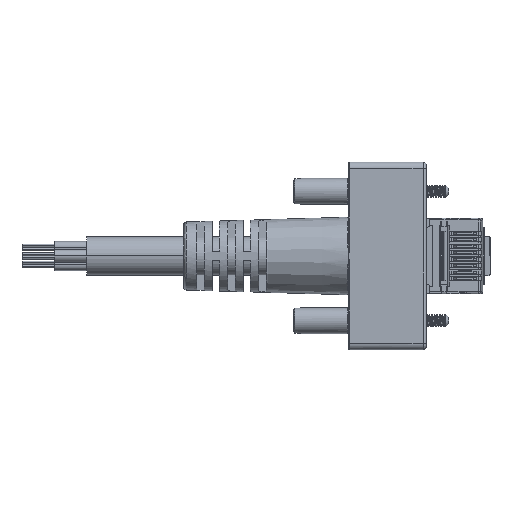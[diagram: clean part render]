
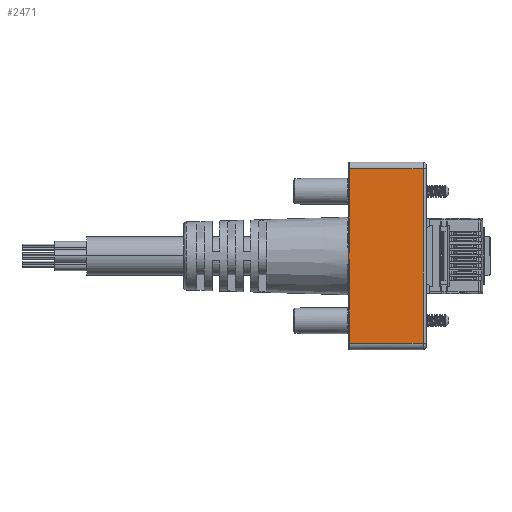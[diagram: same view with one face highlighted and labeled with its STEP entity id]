
A CAD part, top view. The second image highlights one B-rep face of the part: STEP entity #2471.
In plain terms, the highlighted planar face has unit normal (0.021, 0, 1) as drawn and (0, 1, -0.021) by its records, which use the part's own axes.
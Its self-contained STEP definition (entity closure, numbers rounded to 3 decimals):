
#859 = VERTEX_POINT ( 'NONE', #25963 ) ;
#885 = LINE ( 'NONE', #11536, #23726 ) ;
#886 = CARTESIAN_POINT ( 'NONE',  ( -7.25, 6.525, 6. ) ) ;
#972 = DIRECTION ( 'NONE',  ( -1., 0., 0. ) ) ;
#993 = CARTESIAN_POINT ( 'NONE',  ( 1.171, 6.647, 11.847 ) ) ;
#1220 = ORIENTED_EDGE ( 'NONE', *, *, #8592, .T. ) ;
#1908 = CARTESIAN_POINT ( 'NONE',  ( -0.912, 6.647, 11.871 ) ) ;
#2083 = CARTESIAN_POINT ( 'NONE',  ( -0.806, 6.648, 11.882 ) ) ;
#2415 = EDGE_LOOP ( 'NONE', ( #26726, #10386, #22740, #15916, #16180, #9069, #22385, #1220 ) ) ;
#2471 = ADVANCED_FACE ( 'NONE', ( #22021 ), #8353, .T. ) ;
#3628 = LINE ( 'NONE', #14449, #30916 ) ;
#3813 = CARTESIAN_POINT ( 'NONE',  ( 0.679, 6.648, 11.898 ) ) ;
#3997 = CARTESIAN_POINT ( 'NONE',  ( 1.347, 6.647, 11.847 ) ) ;
#4924 = CARTESIAN_POINT ( 'NONE',  ( -1.347, 6.647, 11.847 ) ) ;
#5913 = AXIS2_PLACEMENT_3D ( 'NONE', #886, #11018, #11700 ) ;
#6487 = CARTESIAN_POINT ( 'NONE',  ( 0.953, 6.647, 11.863 ) ) ;
#8348 = CARTESIAN_POINT ( 'NONE',  ( -13.5, 6.647, 11.847 ) ) ;
#8353 = PLANE ( 'NONE',  #5913 ) ;
#8592 = EDGE_CURVE ( 'NONE', #12634, #859, #14446, .T. ) ;
#8889 = LINE ( 'NONE', #9067, #31094 ) ;
#8957 = EDGE_CURVE ( 'NONE', #859, #28816, #9747, .T. ) ;
#9067 = CARTESIAN_POINT ( 'NONE',  ( -7.25, 6.41, 0.49 ) ) ;
#9069 = ORIENTED_EDGE ( 'NONE', *, *, #30879, .T. ) ;
#9156 = CARTESIAN_POINT ( 'NONE',  ( 0.663, 6.648, 11.9 ) ) ;
#9490 = CARTESIAN_POINT ( 'NONE',  ( 0.691, 6.648, 11.896 ) ) ;
#9585 = B_SPLINE_CURVE_WITH_KNOTS ( 'NONE', 3,
 ( #33287, #28494, #12332, #22828, #14986, #9156, #3813, #30966, #9490, #25813, #6487, #993, #3997 ),
 .UNSPECIFIED., .F., .F.,
 ( 4, 1, 1, 1, 1, 1, 2, 2, 4 ),
 ( 0., 0.25, 0.375, 0.438, 0.469, 0.484, 0.492, 0.5, 1. ),
 .UNSPECIFIED. ) ;
#9747 = B_SPLINE_CURVE_WITH_KNOTS ( 'NONE', 3,
 ( #26346, #32019, #20856, #21041 ),
 .UNSPECIFIED., .F., .F.,
 ( 4, 4 ),
 ( 0., 1. ),
 .UNSPECIFIED. ) ;
#10246 = CARTESIAN_POINT ( 'NONE',  ( -0.552, 6.648, 11.914 ) ) ;
#10386 = ORIENTED_EDGE ( 'NONE', *, *, #23312, .T. ) ;
#10418 = EDGE_CURVE ( 'NONE', #12634, #33596, #35113, .T. ) ;
#10803 = CARTESIAN_POINT ( 'NONE',  ( -3.625, 6.647, 11.847 ) ) ;
#11018 = DIRECTION ( 'NONE',  ( 0., 1., -0.021 ) ) ;
#11245 = EDGE_CURVE ( 'NONE', #13594, #15039, #3628, .T. ) ;
#11536 = CARTESIAN_POINT ( 'NONE',  ( 13.5, 6.525, 6. ) ) ;
#11700 = DIRECTION ( 'NONE',  ( 0., 0.021, 1. ) ) ;
#12332 = CARTESIAN_POINT ( 'NONE',  ( 0.38, 6.649, 11.94 ) ) ;
#12634 = VERTEX_POINT ( 'NONE', #30787 ) ;
#12908 = CARTESIAN_POINT ( 'NONE',  ( -0.723, 6.648, 11.892 ) ) ;
#13594 = VERTEX_POINT ( 'NONE', #27701 ) ;
#14446 = B_SPLINE_CURVE_WITH_KNOTS ( 'NONE', 3,
 ( #4924, #29406, #34566, #1908, #2083, #18252, #12908, #20729, #29232, #15919, #10246, #31894, #18779 ),
 .UNSPECIFIED., .F., .F.,
 ( 4, 1, 1, 1, 1, 1, 2, 2, 4 ),
 ( 0., 0.25, 0.375, 0.437, 0.469, 0.484, 0.492, 0.5, 1. ),
 .UNSPECIFIED. ) ;
#14449 = CARTESIAN_POINT ( 'NONE',  ( -3.625, 6.647, 11.847 ) ) ;
#14986 = CARTESIAN_POINT ( 'NONE',  ( 0.628, 6.648, 11.905 ) ) ;
#15039 = VERTEX_POINT ( 'NONE', #28115 ) ;
#15916 = ORIENTED_EDGE ( 'NONE', *, *, #27985, .T. ) ;
#15919 = CARTESIAN_POINT ( 'NONE',  ( -0.698, 6.648, 11.896 ) ) ;
#16180 = ORIENTED_EDGE ( 'NONE', *, *, #28437, .T. ) ;
#16496 = CARTESIAN_POINT ( 'NONE',  ( 0.047, 6.65, 11.992 ) ) ;
#16497 = CARTESIAN_POINT ( 'NONE',  ( -13.5, 6.525, 6. ) ) ;
#18252 = CARTESIAN_POINT ( 'NONE',  ( -0.751, 6.648, 11.889 ) ) ;
#18779 = CARTESIAN_POINT ( 'NONE',  ( -0.047, 6.65, 11.992 ) ) ;
#20729 = CARTESIAN_POINT ( 'NONE',  ( -0.711, 6.648, 11.894 ) ) ;
#20856 = CARTESIAN_POINT ( 'NONE',  ( 0.016, 6.65, 11.998 ) ) ;
#21041 = CARTESIAN_POINT ( 'NONE',  ( 0.047, 6.65, 11.992 ) ) ;
#21640 = DIRECTION ( 'NONE',  ( -1., 0., 0. ) ) ;
#22021 = FACE_OUTER_BOUND ( 'NONE', #2415, .T. ) ;
#22182 = DIRECTION ( 'NONE',  ( 0., 0.021, 1. ) ) ;
#22385 = ORIENTED_EDGE ( 'NONE', *, *, #10418, .F. ) ;
#22721 = DIRECTION ( 'NONE',  ( 0., -0.021, -1. ) ) ;
#22740 = ORIENTED_EDGE ( 'NONE', *, *, #11245, .F. ) ;
#22828 = CARTESIAN_POINT ( 'NONE',  ( 0.554, 6.648, 11.915 ) ) ;
#23312 = EDGE_CURVE ( 'NONE', #28816, #15039, #9585, .T. ) ;
#23540 = VECTOR ( 'NONE', #21640, 1000. ) ;
#23726 = VECTOR ( 'NONE', #22721, 1000. ) ;
#25813 = CARTESIAN_POINT ( 'NONE',  ( 0.691, 6.648, 11.896 ) ) ;
#25963 = CARTESIAN_POINT ( 'NONE',  ( -0.047, 6.65, 11.992 ) ) ;
#26346 = CARTESIAN_POINT ( 'NONE',  ( -0.047, 6.65, 11.992 ) ) ;
#26726 = ORIENTED_EDGE ( 'NONE', *, *, #8957, .T. ) ;
#27701 = CARTESIAN_POINT ( 'NONE',  ( 13.5, 6.647, 11.847 ) ) ;
#27985 = EDGE_CURVE ( 'NONE', #13594, #29788, #885, .T. ) ;
#28115 = CARTESIAN_POINT ( 'NONE',  ( 1.347, 6.647, 11.847 ) ) ;
#28437 = EDGE_CURVE ( 'NONE', #29788, #30186, #8889, .T. ) ;
#28494 = CARTESIAN_POINT ( 'NONE',  ( 0.191, 6.649, 11.969 ) ) ;
#28816 = VERTEX_POINT ( 'NONE', #16496 ) ;
#28840 = VECTOR ( 'NONE', #22182, 1000. ) ;
#29232 = CARTESIAN_POINT ( 'NONE',  ( -0.703, 6.648, 11.895 ) ) ;
#29406 = CARTESIAN_POINT ( 'NONE',  ( -1.259, 6.647, 11.847 ) ) ;
#29788 = VERTEX_POINT ( 'NONE', #31569 ) ;
#30186 = VERTEX_POINT ( 'NONE', #31528 ) ;
#30787 = CARTESIAN_POINT ( 'NONE',  ( -1.347, 6.647, 11.847 ) ) ;
#30879 = EDGE_CURVE ( 'NONE', #30186, #33596, #32992, .T. ) ;
#30916 = VECTOR ( 'NONE', #972, 1000. ) ;
#30966 = CARTESIAN_POINT ( 'NONE',  ( 0.686, 6.648, 11.897 ) ) ;
#31094 = VECTOR ( 'NONE', #33370, 1000. ) ;
#31528 = CARTESIAN_POINT ( 'NONE',  ( -13.5, 6.41, 0.49 ) ) ;
#31569 = CARTESIAN_POINT ( 'NONE',  ( 13.5, 6.41, 0.49 ) ) ;
#31894 = CARTESIAN_POINT ( 'NONE',  ( -0.336, 6.649, 11.946 ) ) ;
#32019 = CARTESIAN_POINT ( 'NONE',  ( -0.016, 6.65, 11.998 ) ) ;
#32992 = LINE ( 'NONE', #16497, #28840 ) ;
#33287 = CARTESIAN_POINT ( 'NONE',  ( 0.047, 6.65, 11.992 ) ) ;
#33370 = DIRECTION ( 'NONE',  ( -1., 0., 0. ) ) ;
#33596 = VERTEX_POINT ( 'NONE', #8348 ) ;
#34566 = CARTESIAN_POINT ( 'NONE',  ( -1.112, 6.647, 11.853 ) ) ;
#35113 = LINE ( 'NONE', #10803, #23540 ) ;
